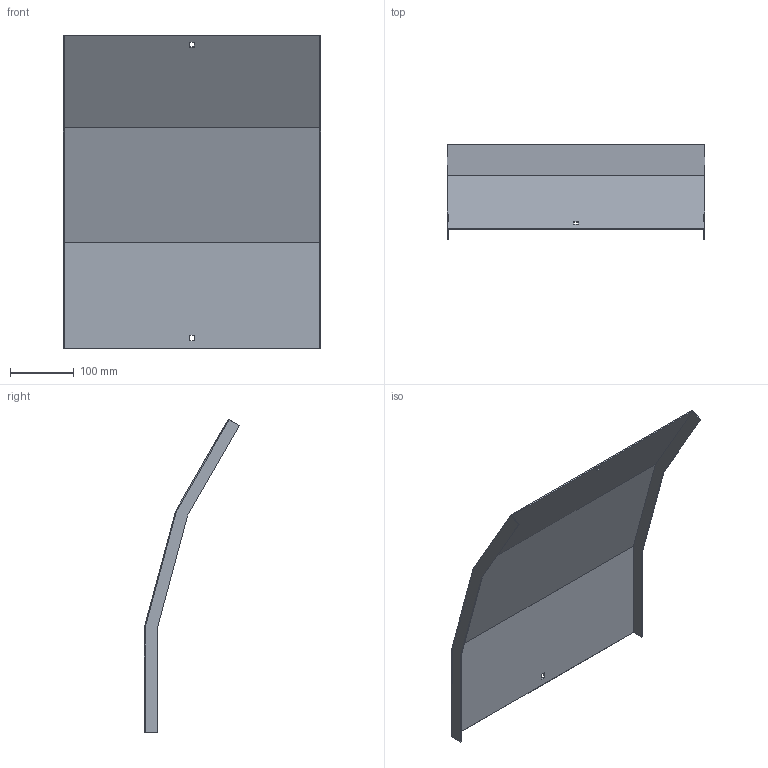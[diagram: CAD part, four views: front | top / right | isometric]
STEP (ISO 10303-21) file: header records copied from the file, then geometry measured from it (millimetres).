
FILE_DESCRIPTION (( 'STEP AP214' ), '1' );
FILE_NAME ('A2_35N3D400.step', '2025-02-21T10:30:47', ( '' ), ( '' ), 'SwSTEP 2.0', 'SolidWorks 2023', '' );
FILE_SCHEMA (( 'AUTOMOTIVE_DESIGN' ));
Length unit declared in the file: millimetre
Products named in the file (1): A2_35N3D400
Bounding box: 403 x 148.61 x 489.96 mm (x, y, z)
Volume: 341502.8 mm3; surface area: 458275.3 mm2
Topology: 1 solids, 1 shells, 26 faces, 72 edges, 48 vertices
Faces by surface type: plane 26
Entity records: 847 total; most frequent: CARTESIAN_POINT 147, ORIENTED_EDGE 144, DIRECTION 126, EDGE_CURVE 72, LINE 72, VECTOR 72, VERTEX_POINT 48, EDGE_LOOP 30
